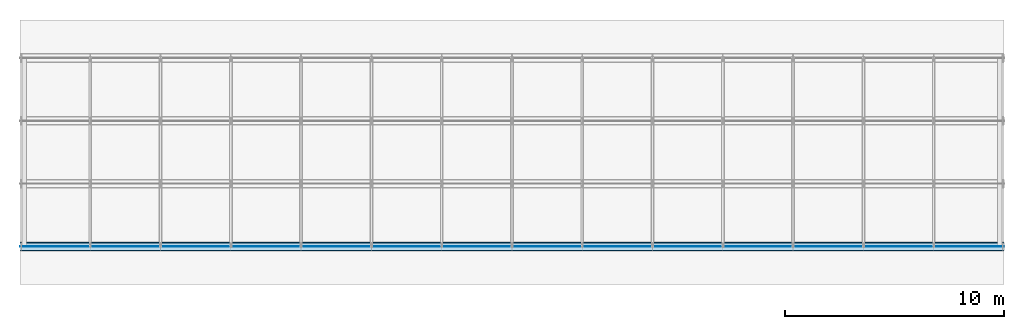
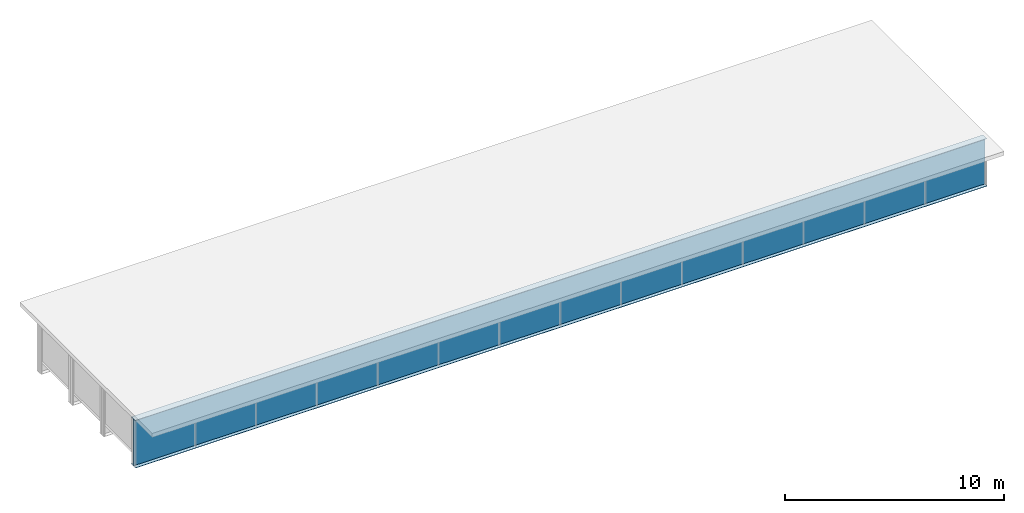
# One storey, part 5 of 13: 3 plates.
"""IFC4 building model written with IfcOpenShell, lengths in metres."""

from ifc_helpers import new_model, si_unit, frame, origin, origin_with_axes, origin_2d_with_axis, place, context, subcontext, project, spatial, rectangle, extrude, element, save


model = new_model("IFC4")

# Units and contexts
model_context = context("Model", 3, precision=1e-05, world=origin())
body_context = subcontext(model_context, "Body", "Model", "MODEL_VIEW")
ifc_project = project(units=[si_unit("LENGTHUNIT", "METRE"), si_unit("AREAUNIT", "SQUARE_METRE"), si_unit("VOLUMEUNIT", "CUBIC_METRE"), si_unit("PLANEANGLEUNIT", "RADIAN")], contexts=[model_context])

# Site, building, storey
site_placement = place(None, origin_with_axes())
site = spatial("IfcSite", under=ifc_project, at=site_placement, Name="Default Site")
building_placement = place(site_placement, origin_with_axes())
building = spatial("IfcBuilding", under=site, at=building_placement, Name="Bridge Structure")
storey_placement = place(building_placement, origin_with_axes())
storey = spatial("IfcBuildingStorey", under=building, at=storey_placement, Name="Superstructure")

# Plates
plate_1_placement = place(storey_placement, frame((0.0, -4.3125, 0.0), z_axis=(1.0, 0.0, 0.0), x_axis=(0.0, 1.0, 0.0)))
element("IfcPlate", 1, at=plate_1_placement, inside=storey, Name="Girder Web 1", context=body_context, shape_type="SweptSolid", body=[
    extrude(rectangle(XDim=0.018000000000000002, YDim=2.614, at=origin_2d_with_axis()), origin_with_axes(), (0.0, 0.0, 1.0), 45.0),
])
plate_2_placement = place(storey_placement, frame((0.0, -4.3125, 1.315), z_axis=(1.0, 0.0, 0.0), x_axis=(0.0, 1.0, 0.0)))
element("IfcPlate", 2, at=plate_2_placement, inside=storey, Name="Top Flange 1", context=body_context, shape_type="SweptSolid", body=[
    extrude(rectangle(XDim=0.35000000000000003, YDim=0.016, at=origin_2d_with_axis()), origin_with_axes(), (0.0, 0.0, 1.0), 45.0),
])
plate_3_placement = place(storey_placement, frame((0.0, -4.3125, -1.317), z_axis=(1.0, 0.0, 0.0), x_axis=(0.0, 1.0, 0.0)))
element("IfcPlate", 3, at=plate_3_placement, inside=storey, Name="Bottom Flange 1", context=body_context, shape_type="SweptSolid", body=[
    extrude(rectangle(XDim=0.4, YDim=0.02, at=origin_2d_with_axis()), origin_with_axes(), (0.0, 0.0, 1.0), 45.0),
])

save(model, "model.ifc")
